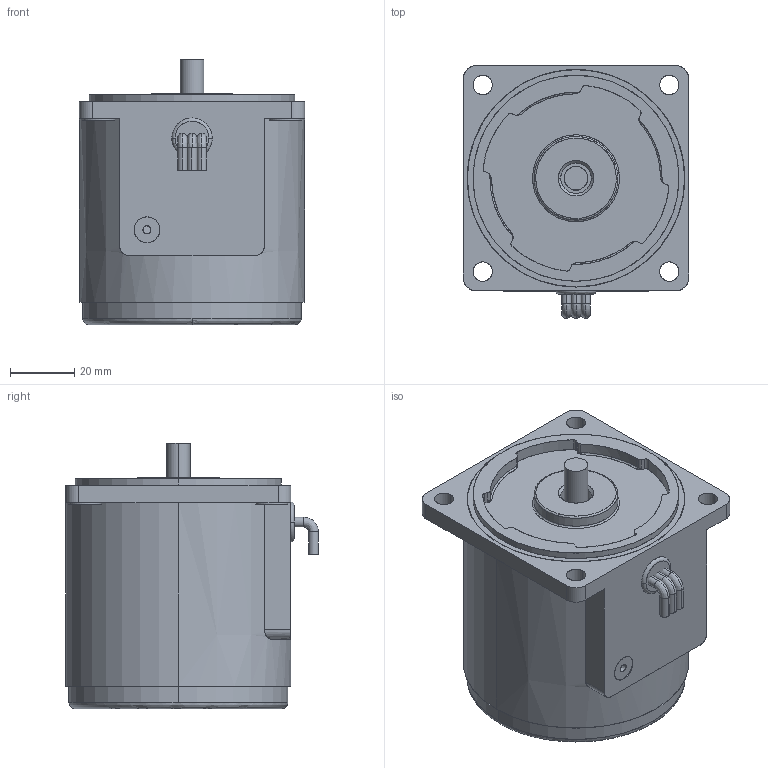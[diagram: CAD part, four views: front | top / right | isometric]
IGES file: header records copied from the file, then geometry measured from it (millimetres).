
Start section: SolidWorks IGES file using analytic representation for surfaces
Bounding box: 70 x 78.5 x 82.5 mm (x, y, z)
Surface area: 51177.4 mm2 (no closed solid volume)
Topology: 0 solids, 0 shells, 178 faces, 3256 edges, 3256 vertices
Faces by surface type: revolution 94, bspline 84
